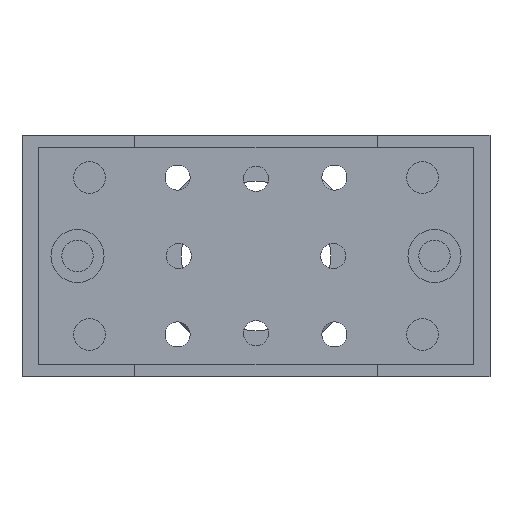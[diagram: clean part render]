
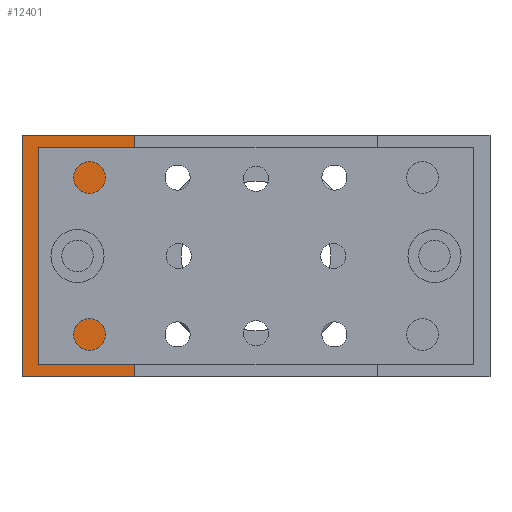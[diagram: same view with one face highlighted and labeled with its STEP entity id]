
A CAD part, front view. The second image highlights one B-rep face of the part: STEP entity #12401.
In plain terms, the highlighted planar face has unit normal (0, -1, 0).
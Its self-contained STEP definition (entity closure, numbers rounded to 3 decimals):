
#68 = CARTESIAN_POINT ( 'NONE',  ( 45., 0., 0. ) ) ;
#857 = EDGE_CURVE ( 'NONE', #18341, #4925, #14779, .T. ) ;
#1303 = ORIENTED_EDGE ( 'NONE', *, *, #857, .F. ) ;
#1406 = EDGE_CURVE ( 'NONE', #18341, #19654, #4448, .T. ) ;
#2480 = VECTOR ( 'NONE', #8713, 1000. ) ;
#2572 = CARTESIAN_POINT ( 'NONE',  ( 45., 0., 0. ) ) ;
#2950 = CIRCLE ( 'NONE', #5711, 7. ) ;
#4125 = LINE ( 'NONE', #12431, #12513 ) ;
#4183 = VERTEX_POINT ( 'NONE', #11257 ) ;
#4448 = LINE ( 'NONE', #9407, #11640 ) ;
#4497 = DIRECTION ( 'NONE',  ( 0., 1., 0. ) ) ;
#4693 = CIRCLE ( 'NONE', #14028, 7. ) ;
#4809 = VERTEX_POINT ( 'NONE', #14062 ) ;
#4925 = VERTEX_POINT ( 'NONE', #17852 ) ;
#5711 = AXIS2_PLACEMENT_3D ( 'NONE', #19727, #18329, #19514 ) ;
#6030 = DIRECTION ( 'NONE',  ( 0., 0., -1. ) ) ;
#6133 = CARTESIAN_POINT ( 'NONE',  ( 8., 0., 25. ) ) ;
#6221 = DIRECTION ( 'NONE',  ( 0., 0., 1. ) ) ;
#7670 = AXIS2_PLACEMENT_3D ( 'NONE', #2572, #20655, #6030 ) ;
#7806 = DIRECTION ( 'NONE',  ( 0., 0., 1. ) ) ;
#8554 = EDGE_CURVE ( 'NONE', #4809, #4183, #4693, .T. ) ;
#8713 = DIRECTION ( 'NONE',  ( 0., 0., 1. ) ) ;
#8975 = CARTESIAN_POINT ( 'NONE',  ( 19.75, 0., 0. ) ) ;
#9268 = VERTEX_POINT ( 'NONE', #18151 ) ;
#9286 = FACE_BOUND ( 'NONE', #10581, .T. ) ;
#9407 = CARTESIAN_POINT ( 'NONE',  ( 19.75, 0., 0. ) ) ;
#10330 = LINE ( 'NONE', #18242, #2480 ) ;
#10581 = EDGE_LOOP ( 'NONE', ( #17755, #11556 ) ) ;
#11257 = CARTESIAN_POINT ( 'NONE',  ( 8., 0., 18. ) ) ;
#11556 = ORIENTED_EDGE ( 'NONE', *, *, #20670, .T. ) ;
#11640 = VECTOR ( 'NONE', #7806, 1000. ) ;
#12401 = ADVANCED_FACE ( 'NONE', ( #9286, #20435 ), #12510, .T. ) ;
#12431 = CARTESIAN_POINT ( 'NONE',  ( 45., 0., 50. ) ) ;
#12510 = PLANE ( 'NONE',  #7670 ) ;
#12513 = VECTOR ( 'NONE', #19050, 1000. ) ;
#13275 = DIRECTION ( 'NONE',  ( -1., 0., 0. ) ) ;
#13418 = CARTESIAN_POINT ( 'NONE',  ( 19.75, 0., 50. ) ) ;
#14028 = AXIS2_PLACEMENT_3D ( 'NONE', #6133, #4497, #6221 ) ;
#14062 = CARTESIAN_POINT ( 'NONE',  ( 8., 0., 32. ) ) ;
#14779 = LINE ( 'NONE', #68, #18991 ) ;
#16343 = ORIENTED_EDGE ( 'NONE', *, *, #18873, .T. ) ;
#17755 = ORIENTED_EDGE ( 'NONE', *, *, #8554, .T. ) ;
#17852 = CARTESIAN_POINT ( 'NONE',  ( -3.5, 0., 0. ) ) ;
#18035 = ORIENTED_EDGE ( 'NONE', *, *, #1406, .T. ) ;
#18151 = CARTESIAN_POINT ( 'NONE',  ( -3.5, 0., 50. ) ) ;
#18242 = CARTESIAN_POINT ( 'NONE',  ( -3.5, 0., 0. ) ) ;
#18329 = DIRECTION ( 'NONE',  ( 0., 1., 0. ) ) ;
#18341 = VERTEX_POINT ( 'NONE', #8975 ) ;
#18458 = EDGE_CURVE ( 'NONE', #4925, #9268, #10330, .T. ) ;
#18873 = EDGE_CURVE ( 'NONE', #19654, #9268, #4125, .T. ) ;
#18991 = VECTOR ( 'NONE', #13275, 1000. ) ;
#19050 = DIRECTION ( 'NONE',  ( -1., 0., 0. ) ) ;
#19514 = DIRECTION ( 'NONE',  ( 0., 0., 1. ) ) ;
#19654 = VERTEX_POINT ( 'NONE', #13418 ) ;
#19727 = CARTESIAN_POINT ( 'NONE',  ( 8., 0., 25. ) ) ;
#19816 = EDGE_LOOP ( 'NONE', ( #20894, #1303, #18035, #16343 ) ) ;
#20435 = FACE_OUTER_BOUND ( 'NONE', #19816, .T. ) ;
#20655 = DIRECTION ( 'NONE',  ( 0., -1., 0. ) ) ;
#20670 = EDGE_CURVE ( 'NONE', #4183, #4809, #2950, .T. ) ;
#20894 = ORIENTED_EDGE ( 'NONE', *, *, #18458, .F. ) ;
